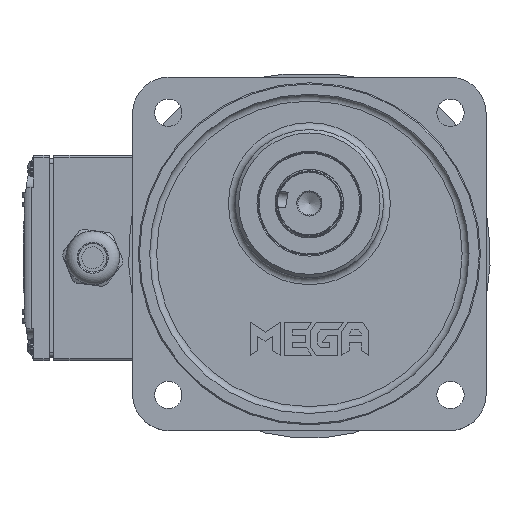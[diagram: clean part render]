
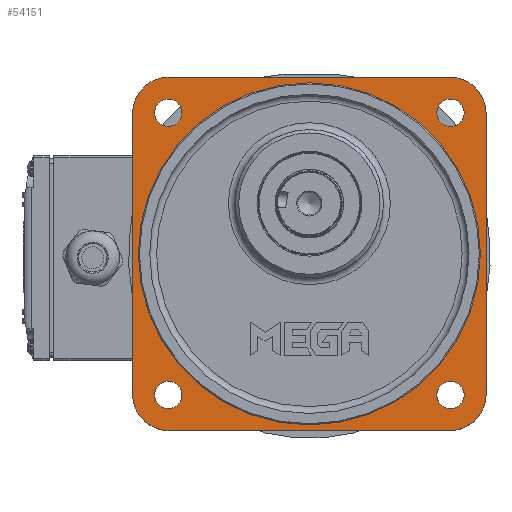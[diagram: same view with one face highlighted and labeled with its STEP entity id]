
A CAD part, top view. The second image highlights one B-rep face of the part: STEP entity #54151.
In plain terms, the highlighted planar face has unit normal (0, 0, 1).
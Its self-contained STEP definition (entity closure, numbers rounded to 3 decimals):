
#6015=FACE_BOUND('',#11719,.T.);
#6016=FACE_BOUND('',#11720,.T.);
#6017=FACE_BOUND('',#11721,.T.);
#6018=FACE_BOUND('',#11722,.T.);
#6019=FACE_BOUND('',#11723,.T.);
#6702=PLANE('',#58402);
#8304=FACE_OUTER_BOUND('',#11718,.T.);
#11718=EDGE_LOOP('',(#41539,#41540,#41541,#41542,#41543,#41544,#41545,#41546));
#11719=EDGE_LOOP('',(#41547));
#11720=EDGE_LOOP('',(#41548));
#11721=EDGE_LOOP('',(#41549));
#11722=EDGE_LOOP('',(#41550));
#11723=EDGE_LOOP('',(#41551));
#15443=LINE('',#87022,#18485);
#15455=LINE('',#87090,#18497);
#15605=LINE('',#88158,#18647);
#15608=LINE('',#88165,#18650);
#18485=VECTOR('',#67257,10.);
#18497=VECTOR('',#67307,10.);
#18647=VECTOR('',#67871,10.);
#18650=VECTOR('',#67880,10.);
#21028=CIRCLE('',#58170,16.);
#21036=CIRCLE('',#58182,6.);
#21038=CIRCLE('',#58185,6.);
#21040=CIRCLE('',#58188,6.);
#21041=CIRCLE('',#58190,6.);
#21115=CIRCLE('',#58360,16.);
#21137=CIRCLE('',#58397,16.);
#21138=CIRCLE('',#58400,16.);
#21139=CIRCLE('',#58403,75.);
#25043=VERTEX_POINT('',#87012);
#25044=VERTEX_POINT('',#87013);
#25047=VERTEX_POINT('',#87021);
#25062=VERTEX_POINT('',#87069);
#25064=VERTEX_POINT('',#87075);
#25066=VERTEX_POINT('',#87081);
#25067=VERTEX_POINT('',#87085);
#25068=VERTEX_POINT('',#87089);
#25203=VERTEX_POINT('',#87742);
#25216=VERTEX_POINT('',#88153);
#25217=VERTEX_POINT('',#88157);
#25218=VERTEX_POINT('',#88161);
#25219=VERTEX_POINT('',#88167);
#30739=EDGE_CURVE('',#25043,#25044,#21028,.T.);
#30743=EDGE_CURVE('',#25044,#25047,#15443,.T.);
#30759=EDGE_CURVE('',#25062,#25062,#21036,.T.);
#30762=EDGE_CURVE('',#25064,#25064,#21038,.T.);
#30765=EDGE_CURVE('',#25066,#25066,#21040,.T.);
#30767=EDGE_CURVE('',#25067,#25067,#21041,.T.);
#30769=EDGE_CURVE('',#25068,#25043,#15455,.T.);
#30999=EDGE_CURVE('',#25047,#25203,#21115,.T.);
#31034=EDGE_CURVE('',#25216,#25068,#21137,.T.);
#31036=EDGE_CURVE('',#25217,#25216,#15605,.T.);
#31038=EDGE_CURVE('',#25218,#25217,#21138,.T.);
#31040=EDGE_CURVE('',#25203,#25218,#15608,.T.);
#31041=EDGE_CURVE('',#25219,#25219,#21139,.T.);
#41539=ORIENTED_EDGE('',*,*,#30769,.F.);
#41540=ORIENTED_EDGE('',*,*,#31034,.F.);
#41541=ORIENTED_EDGE('',*,*,#31036,.F.);
#41542=ORIENTED_EDGE('',*,*,#31038,.F.);
#41543=ORIENTED_EDGE('',*,*,#31040,.F.);
#41544=ORIENTED_EDGE('',*,*,#30999,.F.);
#41545=ORIENTED_EDGE('',*,*,#30743,.F.);
#41546=ORIENTED_EDGE('',*,*,#30739,.F.);
#41547=ORIENTED_EDGE('',*,*,#30767,.F.);
#41548=ORIENTED_EDGE('',*,*,#30765,.F.);
#41549=ORIENTED_EDGE('',*,*,#30762,.F.);
#41550=ORIENTED_EDGE('',*,*,#30759,.F.);
#41551=ORIENTED_EDGE('',*,*,#31041,.F.);
#54151=ADVANCED_FACE('',(#8304,#6015,#6016,#6017,#6018,#6019),#6702,.F.);
#58170=AXIS2_PLACEMENT_3D('',#87014,#67249,#67250);
#58182=AXIS2_PLACEMENT_3D('',#87070,#67283,#67284);
#58185=AXIS2_PLACEMENT_3D('',#87076,#67290,#67291);
#58188=AXIS2_PLACEMENT_3D('',#87082,#67297,#67298);
#58190=AXIS2_PLACEMENT_3D('',#87086,#67302,#67303);
#58360=AXIS2_PLACEMENT_3D('',#87743,#67783,#67784);
#58397=AXIS2_PLACEMENT_3D('',#88154,#67866,#67867);
#58400=AXIS2_PLACEMENT_3D('',#88162,#67875,#67876);
#58402=AXIS2_PLACEMENT_3D('',#88166,#67881,#67882);
#58403=AXIS2_PLACEMENT_3D('',#88168,#67883,#67884);
#67249=DIRECTION('center_axis',(0.,0.,-1.));
#67250=DIRECTION('ref_axis',(1.,0.,0.));
#67257=DIRECTION('',(0.,-1.,0.));
#67283=DIRECTION('center_axis',(0.,0.,1.));
#67284=DIRECTION('ref_axis',(-1.,0.,0.));
#67290=DIRECTION('center_axis',(0.,0.,1.));
#67291=DIRECTION('ref_axis',(-1.,0.,0.));
#67297=DIRECTION('center_axis',(0.,0.,1.));
#67298=DIRECTION('ref_axis',(-1.,0.,0.));
#67302=DIRECTION('center_axis',(0.,0.,1.));
#67303=DIRECTION('ref_axis',(-1.,0.,0.));
#67307=DIRECTION('',(1.,0.,0.));
#67783=DIRECTION('center_axis',(0.,0.,-1.));
#67784=DIRECTION('ref_axis',(0.,-1.,0.));
#67866=DIRECTION('center_axis',(0.,0.,-1.));
#67867=DIRECTION('ref_axis',(0.,1.,0.));
#67871=DIRECTION('',(0.,1.,0.));
#67875=DIRECTION('center_axis',(0.,0.,-1.));
#67876=DIRECTION('ref_axis',(-1.,0.,0.));
#67880=DIRECTION('',(-1.,0.,0.));
#67881=DIRECTION('center_axis',(0.,0.,-1.));
#67882=DIRECTION('ref_axis',(-1.,0.,0.));
#67883=DIRECTION('center_axis',(0.,0.,1.));
#67884=DIRECTION('ref_axis',(-1.,0.,0.));
#87012=CARTESIAN_POINT('',(69.686,62.529,40.5));
#87013=CARTESIAN_POINT('',(85.686,46.529,40.5));
#87014=CARTESIAN_POINT('Origin',(69.686,46.529,40.5));
#87021=CARTESIAN_POINT('',(85.686,-76.471,40.5));
#87022=CARTESIAN_POINT('',(85.686,15.779,40.5));
#87069=CARTESIAN_POINT('',(-47.685,46.901,40.5));
#87070=CARTESIAN_POINT('Origin',(-53.685,46.901,40.5));
#87075=CARTESIAN_POINT('',(76.058,46.901,40.5));
#87076=CARTESIAN_POINT('Origin',(70.058,46.901,40.5));
#87081=CARTESIAN_POINT('',(-47.685,-76.843,40.5));
#87082=CARTESIAN_POINT('Origin',(-53.685,-76.843,40.5));
#87085=CARTESIAN_POINT('',(76.058,-76.843,40.5));
#87086=CARTESIAN_POINT('Origin',(70.058,-76.843,40.5));
#87089=CARTESIAN_POINT('',(-53.314,62.529,40.5));
#87090=CARTESIAN_POINT('',(-22.564,62.529,40.5));
#87742=CARTESIAN_POINT('',(69.686,-92.471,40.5));
#87743=CARTESIAN_POINT('Origin',(69.686,-76.471,40.5));
#88153=CARTESIAN_POINT('',(-69.314,46.529,40.5));
#88154=CARTESIAN_POINT('Origin',(-53.314,46.529,40.5));
#88157=CARTESIAN_POINT('',(-69.314,-76.471,40.5));
#88158=CARTESIAN_POINT('',(-69.314,-45.721,40.5));
#88161=CARTESIAN_POINT('',(-53.314,-92.471,40.5));
#88162=CARTESIAN_POINT('Origin',(-53.314,-76.471,40.5));
#88165=CARTESIAN_POINT('',(38.936,-92.471,40.5));
#88166=CARTESIAN_POINT('Origin',(8.186,-14.971,40.5));
#88167=CARTESIAN_POINT('',(83.186,-14.971,40.5));
#88168=CARTESIAN_POINT('Origin',(8.186,-14.971,40.5));
